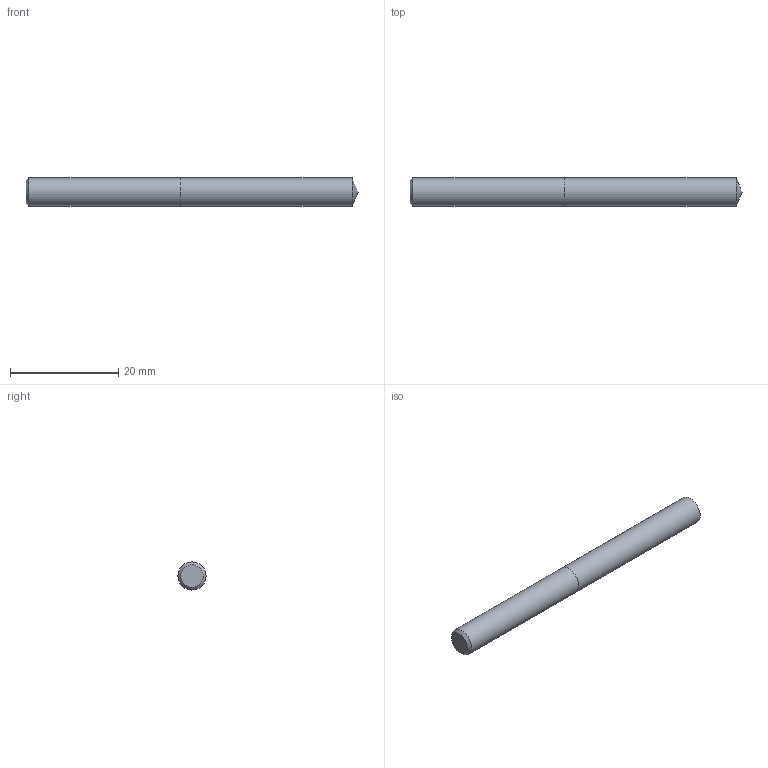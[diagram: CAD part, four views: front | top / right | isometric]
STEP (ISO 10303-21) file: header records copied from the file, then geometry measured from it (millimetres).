
FILE_DESCRIPTION (( 'STEP AP214' ), '1' );
FILE_NAME ('03-2348.STEP', '2022-06-03T06:33:13', ( 'USER' ), ( '' ), 'SwSTEP 2.0', 'SolidWorks 2018', '' );
FILE_SCHEMA (( 'AUTOMOTIVE_DESIGN' ));
Length unit declared in the file: inch
Products named in the file (1): 03-2348
Bounding box: 61.4 x 5.18 x 5.18 mm (x, y, z)
Volume: 1277.6 mm3; surface area: 1062.8 mm2
Topology: 2 solids, 2 shells, 7 faces, 11 edges, 7 vertices
Faces by surface type: plane 3, cylinder 2, cone 2
Full cylindrical faces by diameter (mm): 5.182 x2
Entity records: 214 total; most frequent: DIRECTION 26, CARTESIAN_POINT 18, AXIS2_PLACEMENT_3D 13, ORIENTED_EDGE 10, EDGE_LOOP 10, FACE_OUTER_BOUND 9, DIMENSIONAL_EXPONENTS 7, UNCERTAINTY_MEASURE_WITH_UNIT 7
